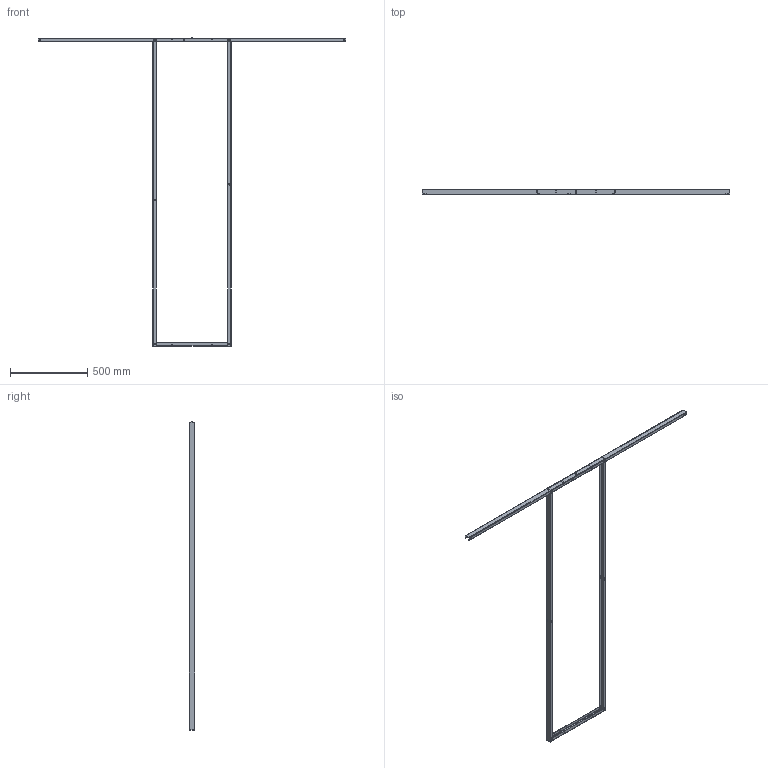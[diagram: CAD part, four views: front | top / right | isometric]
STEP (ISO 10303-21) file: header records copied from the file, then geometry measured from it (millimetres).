
FILE_DESCRIPTION( ( 'Unknown' ), '1' );
FILE_NAME( 'Q:/C3/WEB DRAWINGS/STEP/C3JK7823.stp', 'Unknown', ( 'Unknown' ), ( 'Unknown' ), 'XStep 1.0', 'Unknown', ' ' );
FILE_SCHEMA( ( 'CONFIG_CONTROL_DESIGN' ) );
Length unit declared in the file: millimetre
Products named in the file (11): Assem1; Assem2; 1; 2; 3; 4; 5; 6; 7; 8; 9
Bounding box: 1995.09 x 35.31 x 1998.65 mm (x, y, z)
Volume: 1331629.9 mm3; surface area: 1497603.7 mm2
Topology: 32 solids, 32 shells, 488 faces, 1240 edges, 824 vertices
Faces by surface type: plane 296, cylinder 168, torus 24
Full cylindrical faces by diameter (mm): 5.105 x24, 7.442 x24, 7.938 x24
Entity records: 5414 total; most frequent: DIRECTION 856, CARTESIAN_POINT 848, ORIENTED_EDGE 796, EDGE_CURVE 398, LINE 292, VECTOR 292, AXIS2_PLACEMENT_3D 282, VERTEX_POINT 274
